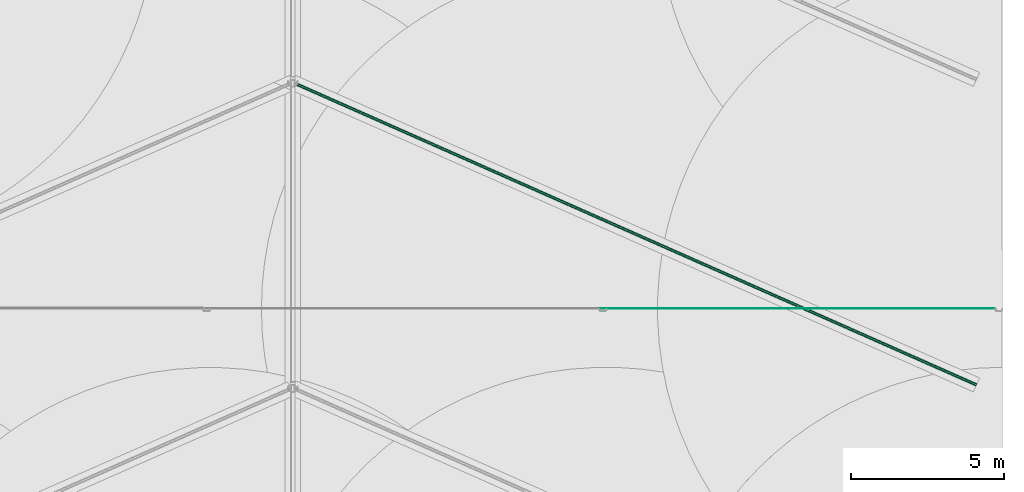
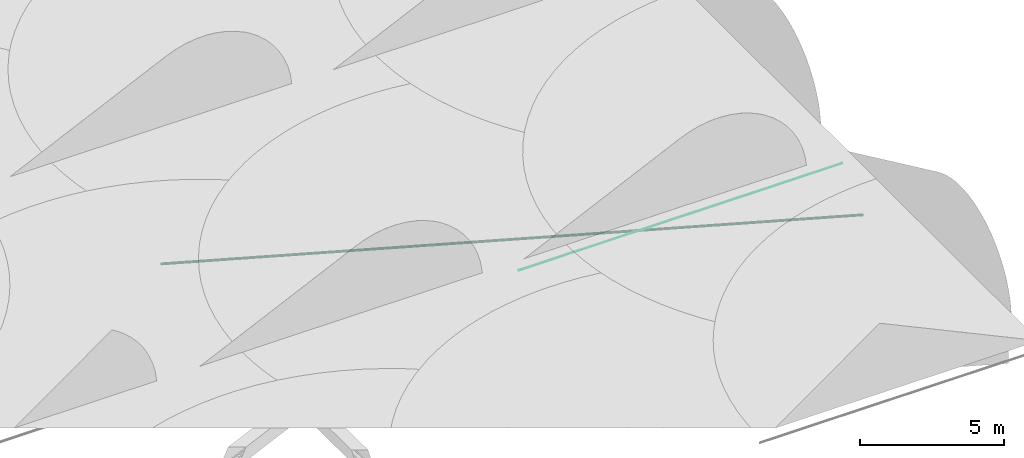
# One storey, part 32 of 166: 2 flow segments.
"""IFC2X3 building model written with IfcOpenShell, lengths in metres."""

from ifc_helpers import new_model, entity, si_unit, converted_unit, direction, frame, frame_2d, origin, origin_2d_with_axis, place, context, subcontext, project, spatial, circle, extrude, type_object, element, save


model = new_model("IFC2X3")

# Units and contexts
model_context = context("Model", 3, precision=1e-05, world=origin(), true_north=direction((6.123233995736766e-17, 1.0)))
body_context = subcontext(model_context, "Body", "Model", "MODEL_VIEW")
ifc_project = project(units=[si_unit("LENGTHUNIT", "METRE"), converted_unit("PLANEANGLEUNIT", "DEGREE", entity("IfcPlaneAngleMeasure", 0.017453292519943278), si_unit("PLANEANGLEUNIT", "RADIAN"), dimensions=[0, 0, 0, 0, 0, 0, 0]), si_unit("AREAUNIT", "SQUARE_METRE")], contexts=[model_context])

# Site, building, storey
site_placement = place(None, origin())
site = spatial("IfcSite", under=ifc_project, at=site_placement, Name="Default", CompositionType="ELEMENT")
building_placement = place(site_placement, origin())
building = spatial("IfcBuilding", under=site, at=building_placement, Name="CASA DE ACOLHIDA PARA IDOSOS", CompositionType="ELEMENT")
storey_placement = place(building_placement, frame((0.0, 0.0, -1.7499999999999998)))
storey = spatial("IfcBuildingStorey", under=building, at=storey_placement, Name="IMPLANTAÇÃO DRENAGEM", CompositionType="ELEMENT", Elevation=-1.7499999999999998)

# Flow segments
pipe_segment_type_1 = type_object("IfcPipeSegmentType", Name="Tipos de tubos:PLUV_Tubo PEAD Corrugado", PredefinedType="NOTDEFINED")
flow_segment_1_placement = place(storey_placement, origin())
element("IfcFlowSegment", 1, at=flow_segment_1_placement, inside=storey, type_object=pipe_segment_type_1, Name="Tipos de tubos:PLUV_Tubo PEAD Corrugado", ObjectType="Tipos de tubos:PLUV_Tubo PEAD Corrugado", context=body_context, shape_type="SweptSolid", body=[
    extrude(circle(Radius=0.05, at=frame_2d((0.0, 2.707032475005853e-16), x_axis=(1.0, 0.0))), frame((45.355557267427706, -6.046942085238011, -0.6500099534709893), z_axis=(-0.9144899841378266, 0.4044849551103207, -0.009999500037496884), x_axis=(0.40450517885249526, 0.9145357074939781, 0.0)), (0.0, 0.0, 1.0), 24.480228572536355),
])
pipe_segment_type_2 = type_object("IfcPipeSegmentType", Name="Tipos de tubos:AF_Tubo Marrom Soldável", PredefinedType="NOTDEFINED")
flow_segment_2_placement = place(storey_placement, origin())
element("IfcFlowSegment", 2, at=flow_segment_2_placement, inside=storey, type_object=pipe_segment_type_2, Name="Tipos de tubos:AF_Tubo Marrom Soldável", ObjectType="Tipos de tubos:AF_Tubo Marrom Soldável", context=body_context, shape_type="SweptSolid", body=[
    extrude(circle(Radius=0.0125, at=origin_2d_with_axis()), frame((33.02495110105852, -3.5450579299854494, -0.19999999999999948), z_axis=(1.0, 0.0, 0.0), x_axis=(0.0, -1.0, 0.0)), (0.0, 0.0, 1.0), 12.9336),
])

save(model, "model.ifc")
